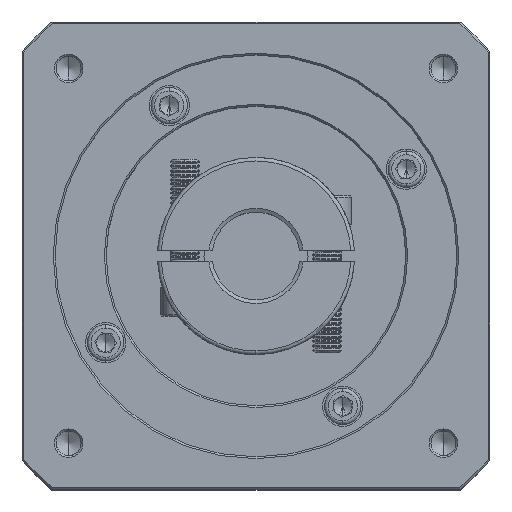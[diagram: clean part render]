
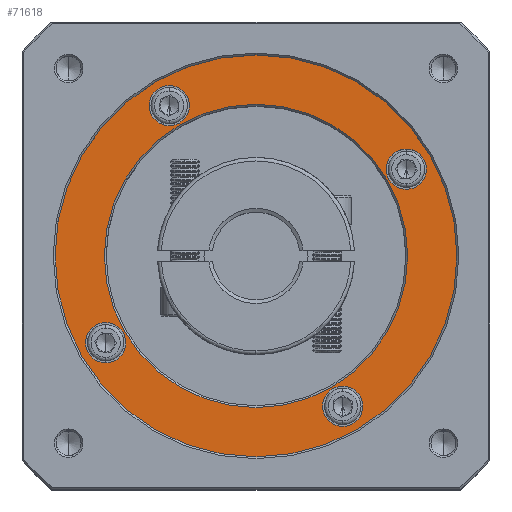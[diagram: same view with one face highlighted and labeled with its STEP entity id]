
A CAD part, top view. The second image highlights one B-rep face of the part: STEP entity #71618.
In plain terms, the highlighted planar face has unit normal (0, 0, 1).
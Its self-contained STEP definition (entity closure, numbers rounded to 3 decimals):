
#267 = CARTESIAN_POINT ( 'NONE',  ( 66.588, 32.624, -24.876 ) ) ;
#1703 = PLANE ( 'NONE',  #66666 ) ;
#2425 = AXIS2_PLACEMENT_3D ( 'NONE', #110516, #123118, #4701 ) ;
#3804 = CIRCLE ( 'NONE', #98262, 5.5 ) ;
#4178 = VERTEX_POINT ( 'NONE', #134812 ) ;
#4592 = CARTESIAN_POINT ( 'NONE',  ( 42.838, 68.26, -24.876 ) ) ;
#4701 = DIRECTION ( 'NONE',  ( 0., -1., 0. ) ) ;
#6609 = FACE_BOUND ( 'NONE', #43410, .T. ) ;
#8531 = ORIENTED_EDGE ( 'NONE', *, *, #90454, .T. ) ;
#9261 = CIRCLE ( 'NONE', #26670, 41.5 ) ;
#9285 = CARTESIAN_POINT ( 'NONE',  ( 107.724, 56.374, -24.876 ) ) ;
#9302 = EDGE_LOOP ( 'NONE', ( #120100, #105205 ) ) ;
#9641 = ORIENTED_EDGE ( 'NONE', *, *, #49734, .T. ) ;
#10170 = CARTESIAN_POINT ( 'NONE',  ( 42.838, 73.76, -24.876 ) ) ;
#11105 = DIRECTION ( 'NONE',  ( 0., -1., 0. ) ) ;
#11567 = ORIENTED_EDGE ( 'NONE', *, *, #57939, .T. ) ;
#13462 = CIRCLE ( 'NONE', #59395, 55. ) ;
#14006 = CARTESIAN_POINT ( 'NONE',  ( 66.588, 32.624, -24.876 ) ) ;
#15387 = DIRECTION ( 'NONE',  ( -1., 0., 0. ) ) ;
#15399 = EDGE_CURVE ( 'NONE', #24538, #113938, #44642, .T. ) ;
#15840 = CARTESIAN_POINT ( 'NONE',  ( 66.588, 32.624, -24.876 ) ) ;
#17225 = AXIS2_PLACEMENT_3D ( 'NONE', #95030, #61862, #31148 ) ;
#17667 = ORIENTED_EDGE ( 'NONE', *, *, #15399, .T. ) ;
#19904 = FACE_OUTER_BOUND ( 'NONE', #97122, .T. ) ;
#22312 = EDGE_CURVE ( 'NONE', #4178, #53761, #3804, .T. ) ;
#22990 = CIRCLE ( 'NONE', #92229, 5.5 ) ;
#24538 = VERTEX_POINT ( 'NONE', #104874 ) ;
#25658 = DIRECTION ( 'NONE',  ( 0., -1., 0. ) ) ;
#25728 = EDGE_LOOP ( 'NONE', ( #11567, #73514 ) ) ;
#26670 = AXIS2_PLACEMENT_3D ( 'NONE', #14006, #100220, #15387 ) ;
#28313 = FACE_BOUND ( 'NONE', #25728, .T. ) ;
#29664 = AXIS2_PLACEMENT_3D ( 'NONE', #15840, #90456, #25658 ) ;
#30302 = EDGE_LOOP ( 'NONE', ( #107595, #116739 ) ) ;
#31130 = CARTESIAN_POINT ( 'NONE',  ( 66.588, -22.376, -24.876 ) ) ;
#31148 = DIRECTION ( 'NONE',  ( 0., -1., 0. ) ) ;
#31969 = CARTESIAN_POINT ( 'NONE',  ( 90.338, -8.513, -24.876 ) ) ;
#32786 = AXIS2_PLACEMENT_3D ( 'NONE', #72769, #115192, #116109 ) ;
#34785 = CARTESIAN_POINT ( 'NONE',  ( 66.588, 32.624, -24.876 ) ) ;
#35683 = ORIENTED_EDGE ( 'NONE', *, *, #78032, .T. ) ;
#36139 = CIRCLE ( 'NONE', #32786, 5.5 ) ;
#38475 = DIRECTION ( 'NONE',  ( 0., 0., -1. ) ) ;
#41259 = CARTESIAN_POINT ( 'NONE',  ( 42.838, 79.26, -24.876 ) ) ;
#42265 = DIRECTION ( 'NONE',  ( 0., 0., -1. ) ) ;
#42728 = DIRECTION ( 'NONE',  ( 0., -1., 0. ) ) ;
#43410 = EDGE_LOOP ( 'NONE', ( #17667, #35683 ) ) ;
#44642 = CIRCLE ( 'NONE', #2425, 5.5 ) ;
#45751 = CIRCLE ( 'NONE', #17225, 5.5 ) ;
#46587 = FACE_BOUND ( 'NONE', #9302, .T. ) ;
#49093 = AXIS2_PLACEMENT_3D ( 'NONE', #10170, #42265, #42728 ) ;
#49734 = EDGE_CURVE ( 'NONE', #77245, #124120, #13462, .T. ) ;
#50993 = CARTESIAN_POINT ( 'NONE',  ( 90.338, -3.013, -24.876 ) ) ;
#52420 = CARTESIAN_POINT ( 'NONE',  ( 66.588, 32.624, -24.876 ) ) ;
#53138 = CIRCLE ( 'NONE', #74427, 5.5 ) ;
#53761 = VERTEX_POINT ( 'NONE', #115402 ) ;
#56552 = FACE_BOUND ( 'NONE', #30302, .T. ) ;
#57939 = EDGE_CURVE ( 'NONE', #74226, #96034, #92524, .T. ) ;
#59395 = AXIS2_PLACEMENT_3D ( 'NONE', #52420, #127532, #72975 ) ;
#59819 = DIRECTION ( 'NONE',  ( 0., -1., 0. ) ) ;
#61862 = DIRECTION ( 'NONE',  ( 0., 0., -1. ) ) ;
#63729 = EDGE_CURVE ( 'NONE', #53761, #4178, #53138, .T. ) ;
#65963 = DIRECTION ( 'NONE',  ( -1., 0., 0. ) ) ;
#66666 = AXIS2_PLACEMENT_3D ( 'NONE', #267, #129490, #11105 ) ;
#68463 = EDGE_CURVE ( 'NONE', #134326, #124836, #119698, .T. ) ;
#71618 = ADVANCED_FACE ( 'NONE', ( #19904, #28313, #109993, #46587, #6609, #56552 ), #1703, .T. ) ;
#72769 = CARTESIAN_POINT ( 'NONE',  ( 25.452, 8.874, -24.876 ) ) ;
#72975 = DIRECTION ( 'NONE',  ( 0., -1., 0. ) ) ;
#73514 = ORIENTED_EDGE ( 'NONE', *, *, #94236, .T. ) ;
#73617 = ORIENTED_EDGE ( 'NONE', *, *, #115083, .T. ) ;
#74226 = VERTEX_POINT ( 'NONE', #130983 ) ;
#74427 = AXIS2_PLACEMENT_3D ( 'NONE', #9285, #83892, #115513 ) ;
#74692 = DIRECTION ( 'NONE',  ( 0., 0., -1. ) ) ;
#74799 = DIRECTION ( 'NONE',  ( 0., -1., 0. ) ) ;
#75161 = DIRECTION ( 'NONE',  ( 0., -1., 0. ) ) ;
#76325 = CARTESIAN_POINT ( 'NONE',  ( 25.452, 14.374, -24.876 ) ) ;
#77245 = VERTEX_POINT ( 'NONE', #31130 ) ;
#77793 = CARTESIAN_POINT ( 'NONE',  ( 66.588, 87.624, -24.876 ) ) ;
#78032 = EDGE_CURVE ( 'NONE', #113938, #24538, #36139, .T. ) ;
#78106 = DIRECTION ( 'NONE',  ( 0., 0., -1. ) ) ;
#82378 = CARTESIAN_POINT ( 'NONE',  ( 108.088, 32.624, -24.876 ) ) ;
#83892 = DIRECTION ( 'NONE',  ( 0., 0., -1. ) ) ;
#84182 = CIRCLE ( 'NONE', #49093, 5.5 ) ;
#89190 = CARTESIAN_POINT ( 'NONE',  ( 90.338, -14.013, -24.876 ) ) ;
#90454 = EDGE_CURVE ( 'NONE', #135367, #103199, #22990, .T. ) ;
#90456 = DIRECTION ( 'NONE',  ( 0., 0., 1. ) ) ;
#91651 = CARTESIAN_POINT ( 'NONE',  ( 107.724, 56.374, -24.876 ) ) ;
#92229 = AXIS2_PLACEMENT_3D ( 'NONE', #31969, #119036, #74799 ) ;
#92524 = CIRCLE ( 'NONE', #138337, 41.5 ) ;
#93125 = ORIENTED_EDGE ( 'NONE', *, *, #114810, .T. ) ;
#94236 = EDGE_CURVE ( 'NONE', #96034, #74226, #9261, .T. ) ;
#94618 = EDGE_CURVE ( 'NONE', #124836, #134326, #84182, .T. ) ;
#95030 = CARTESIAN_POINT ( 'NONE',  ( 90.338, -8.513, -24.876 ) ) ;
#96034 = VERTEX_POINT ( 'NONE', #82378 ) ;
#96163 = CARTESIAN_POINT ( 'NONE',  ( 42.838, 73.76, -24.876 ) ) ;
#97122 = EDGE_LOOP ( 'NONE', ( #9641, #93125 ) ) ;
#98262 = AXIS2_PLACEMENT_3D ( 'NONE', #91651, #38475, #59819 ) ;
#100220 = DIRECTION ( 'NONE',  ( 0., 0., -1. ) ) ;
#103199 = VERTEX_POINT ( 'NONE', #50993 ) ;
#104874 = CARTESIAN_POINT ( 'NONE',  ( 25.452, 3.374, -24.876 ) ) ;
#105205 = ORIENTED_EDGE ( 'NONE', *, *, #63729, .T. ) ;
#107595 = ORIENTED_EDGE ( 'NONE', *, *, #68463, .T. ) ;
#109993 = FACE_BOUND ( 'NONE', #133701, .T. ) ;
#110516 = CARTESIAN_POINT ( 'NONE',  ( 25.452, 8.874, -24.876 ) ) ;
#113938 = VERTEX_POINT ( 'NONE', #76325 ) ;
#114810 = EDGE_CURVE ( 'NONE', #124120, #77245, #122591, .T. ) ;
#115083 = EDGE_CURVE ( 'NONE', #103199, #135367, #45751, .T. ) ;
#115192 = DIRECTION ( 'NONE',  ( 0., 0., -1. ) ) ;
#115402 = CARTESIAN_POINT ( 'NONE',  ( 107.724, 61.874, -24.876 ) ) ;
#115513 = DIRECTION ( 'NONE',  ( 0., -1., 0. ) ) ;
#116109 = DIRECTION ( 'NONE',  ( 0., -1., 0. ) ) ;
#116739 = ORIENTED_EDGE ( 'NONE', *, *, #94618, .T. ) ;
#119036 = DIRECTION ( 'NONE',  ( 0., 0., -1. ) ) ;
#119698 = CIRCLE ( 'NONE', #133263, 5.5 ) ;
#120100 = ORIENTED_EDGE ( 'NONE', *, *, #22312, .T. ) ;
#122591 = CIRCLE ( 'NONE', #29664, 55. ) ;
#123118 = DIRECTION ( 'NONE',  ( 0., 0., -1. ) ) ;
#124120 = VERTEX_POINT ( 'NONE', #77793 ) ;
#124836 = VERTEX_POINT ( 'NONE', #41259 ) ;
#127532 = DIRECTION ( 'NONE',  ( 0., 0., 1. ) ) ;
#129490 = DIRECTION ( 'NONE',  ( 0., 0., 1. ) ) ;
#130983 = CARTESIAN_POINT ( 'NONE',  ( 25.088, 32.624, -24.876 ) ) ;
#133263 = AXIS2_PLACEMENT_3D ( 'NONE', #96163, #74692, #75161 ) ;
#133701 = EDGE_LOOP ( 'NONE', ( #8531, #73617 ) ) ;
#134326 = VERTEX_POINT ( 'NONE', #4592 ) ;
#134812 = CARTESIAN_POINT ( 'NONE',  ( 107.724, 50.874, -24.876 ) ) ;
#135367 = VERTEX_POINT ( 'NONE', #89190 ) ;
#138337 = AXIS2_PLACEMENT_3D ( 'NONE', #34785, #78106, #65963 ) ;
